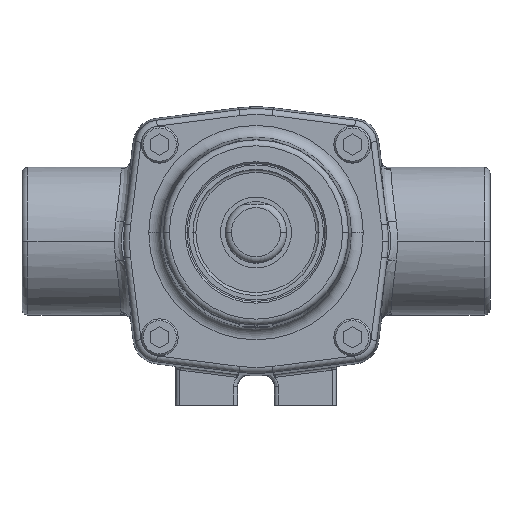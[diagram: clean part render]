
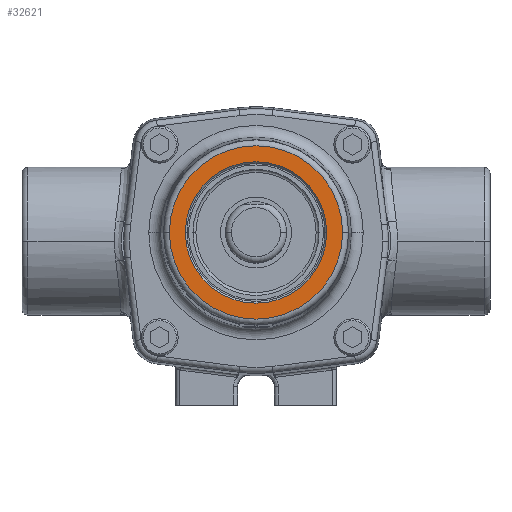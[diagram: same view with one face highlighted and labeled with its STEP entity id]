
A CAD part, top view. The second image highlights one B-rep face of the part: STEP entity #32621.
In plain terms, the highlighted planar face has unit normal (0, 0, 1).
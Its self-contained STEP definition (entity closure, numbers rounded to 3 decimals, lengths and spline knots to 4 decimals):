
#273 = CARTESIAN_POINT ( 'NONE',  ( 0., 0.085, 3.96 ) ) ;
#274 = DIRECTION ( 'NONE',  ( 0., 0., -1. ) ) ;
#275 = DIRECTION ( 'NONE',  ( 1., 0., 0. ) ) ;
#3369 = CARTESIAN_POINT ( 'NONE',  ( 0., 0.085, 3.96 ) ) ;
#3372 = PLANE ( 'NONE',  #26568 ) ;
#3374 = DIRECTION ( 'NONE',  ( 0., 0., 1. ) ) ;
#3375 = DIRECTION ( 'NONE',  ( 1., 0., 0. ) ) ;
#19649 = EDGE_CURVE ( 'NONE', #37840, #37215, #31989, .T. ) ;
#20437 = CARTESIAN_POINT ( 'NONE',  ( 0., 0.085, 3.96 ) ) ;
#20438 = DIRECTION ( 'NONE',  ( 0., 0., 1. ) ) ;
#20439 = DIRECTION ( 'NONE',  ( 1., 0., 0. ) ) ;
#21059 = CARTESIAN_POINT ( 'NONE',  ( -0.7175, 0.085, 3.96 ) ) ;
#21173 = CARTESIAN_POINT ( 'NONE',  ( -0.8796, 0.085, 3.96 ) ) ;
#21332 = CARTESIAN_POINT ( 'NONE',  ( 0.8796, 0.085, 3.96 ) ) ;
#21394 = CARTESIAN_POINT ( 'NONE',  ( 0.7175, 0.085, 3.96 ) ) ;
#22013 = EDGE_LOOP ( 'NONE', ( #37519, #40656 ) ) ;
#22659 = EDGE_LOOP ( 'NONE', ( #41208, #37757 ) ) ;
#25315 = FACE_BOUND ( 'NONE', #22659, .T. ) ;
#25321 = FACE_OUTER_BOUND ( 'NONE', #22013, .T. ) ;
#26202 = AXIS2_PLACEMENT_3D ( 'NONE', #30600, #30601, #30602 ) ;
#26469 = AXIS2_PLACEMENT_3D ( 'NONE', #273, #274, #275 ) ;
#26568 = AXIS2_PLACEMENT_3D ( 'NONE', #3369, #3374, #3375 ) ;
#26579 = AXIS2_PLACEMENT_3D ( 'NONE', #20437, #20438, #20439 ) ;
#27071 = AXIS2_PLACEMENT_3D ( 'NONE', #42963, #42964, #42627 ) ;
#30600 = CARTESIAN_POINT ( 'NONE',  ( 0., 0.085, 3.96 ) ) ;
#30601 = DIRECTION ( 'NONE',  ( 0., 0., 1. ) ) ;
#30602 = DIRECTION ( 'NONE',  ( 1., 0., 0. ) ) ;
#31989 = CIRCLE ( 'NONE', #27071, 0.7175 ) ;
#32621 = ADVANCED_FACE ( 'NONE', ( #25315, #25321 ), #3372, .T. ) ;
#33037 = EDGE_CURVE ( 'NONE', #37215, #37840, #40299, .T. ) ;
#33350 = EDGE_CURVE ( 'NONE', #37432, #37718, #40563, .T. ) ;
#33720 = EDGE_CURVE ( 'NONE', #37718, #37432, #38167, .T. ) ;
#37215 = VERTEX_POINT ( 'NONE', #21059 ) ;
#37432 = VERTEX_POINT ( 'NONE', #21173 ) ;
#37519 = ORIENTED_EDGE ( 'NONE', *, *, #33720, .T. ) ;
#37718 = VERTEX_POINT ( 'NONE', #21332 ) ;
#37757 = ORIENTED_EDGE ( 'NONE', *, *, #33037, .T. ) ;
#37840 = VERTEX_POINT ( 'NONE', #21394 ) ;
#38167 = CIRCLE ( 'NONE', #26579, 0.8796 ) ;
#40299 = CIRCLE ( 'NONE', #26469, 0.7175 ) ;
#40563 = CIRCLE ( 'NONE', #26202, 0.8796 ) ;
#40656 = ORIENTED_EDGE ( 'NONE', *, *, #33350, .T. ) ;
#41208 = ORIENTED_EDGE ( 'NONE', *, *, #19649, .T. ) ;
#42627 = DIRECTION ( 'NONE',  ( 1., 0., 0. ) ) ;
#42963 = CARTESIAN_POINT ( 'NONE',  ( 0., 0.085, 3.96 ) ) ;
#42964 = DIRECTION ( 'NONE',  ( 0., 0., -1. ) ) ;
